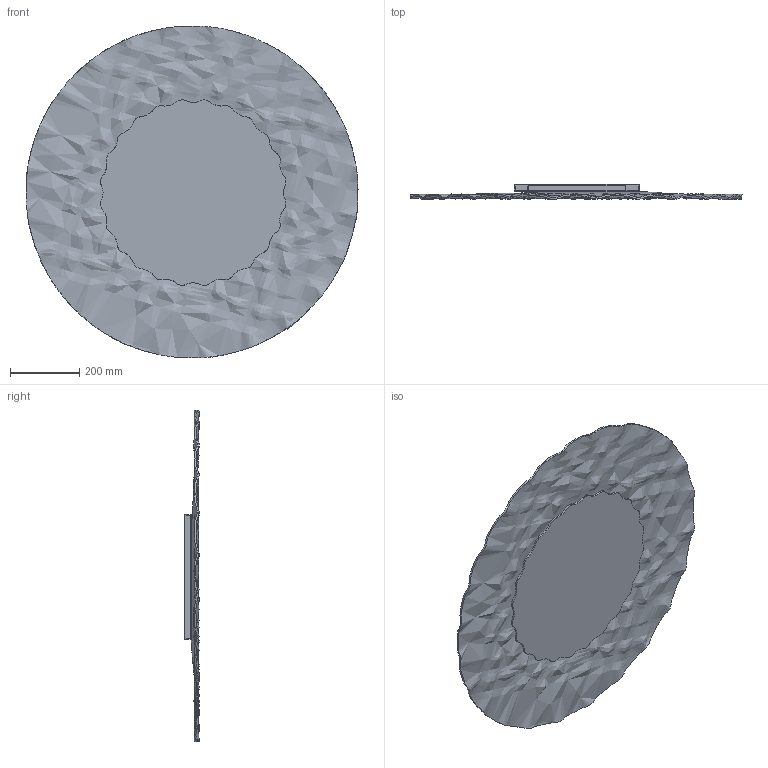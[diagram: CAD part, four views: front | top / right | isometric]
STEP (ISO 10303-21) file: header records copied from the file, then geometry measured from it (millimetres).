
FILE_DESCRIPTION(/* description */ (''),/* implementation_level */ '2;1');
FILE_NAME(/* name */ 'POP_diam96',/* time_stamp */ '2025-02-21T17:08:11+01:00',/* author */ (''),/* organization */ (''),/* preprocessor_version */ 'ST-DEVELOPER v16.5',/* originating_system */ '',/* authorisation */ '');
FILE_SCHEMA (('AUTOMOTIVE_DESIGN'));
Length unit declared in the file: millimetre
Products named in the file (1): Document
Bounding box: 960.13 x 44.49 x 960.04 mm (x, y, z)
Volume: 4768887.9 mm3; surface area: 2244140.5 mm2
Topology: 6 solids, 6 shells, 82 faces, 179 edges, 109 vertices
Faces by surface type: plane 72, bspline 10
Entity records: 137153 total; most frequent: CARTESIAN_POINT 135813, ORIENTED_EDGE 356, EDGE_CURVE 178, B_SPLINE_CURVE_WITH_KNOTS 167, VERTEX_POINT 108, EDGE_LOOP 90, ADVANCED_FACE 82, FACE_OUTER_BOUND 82
